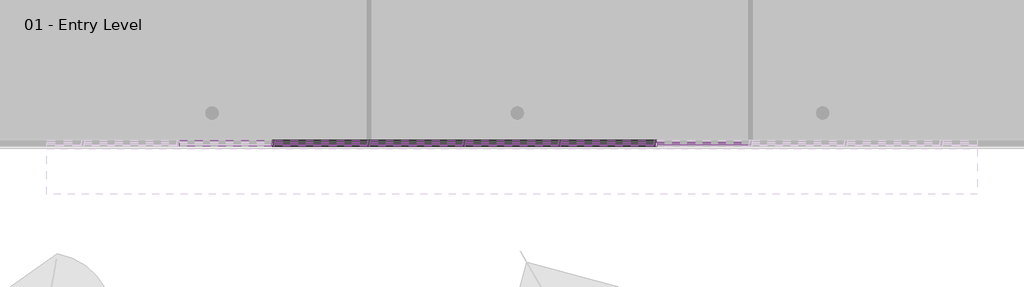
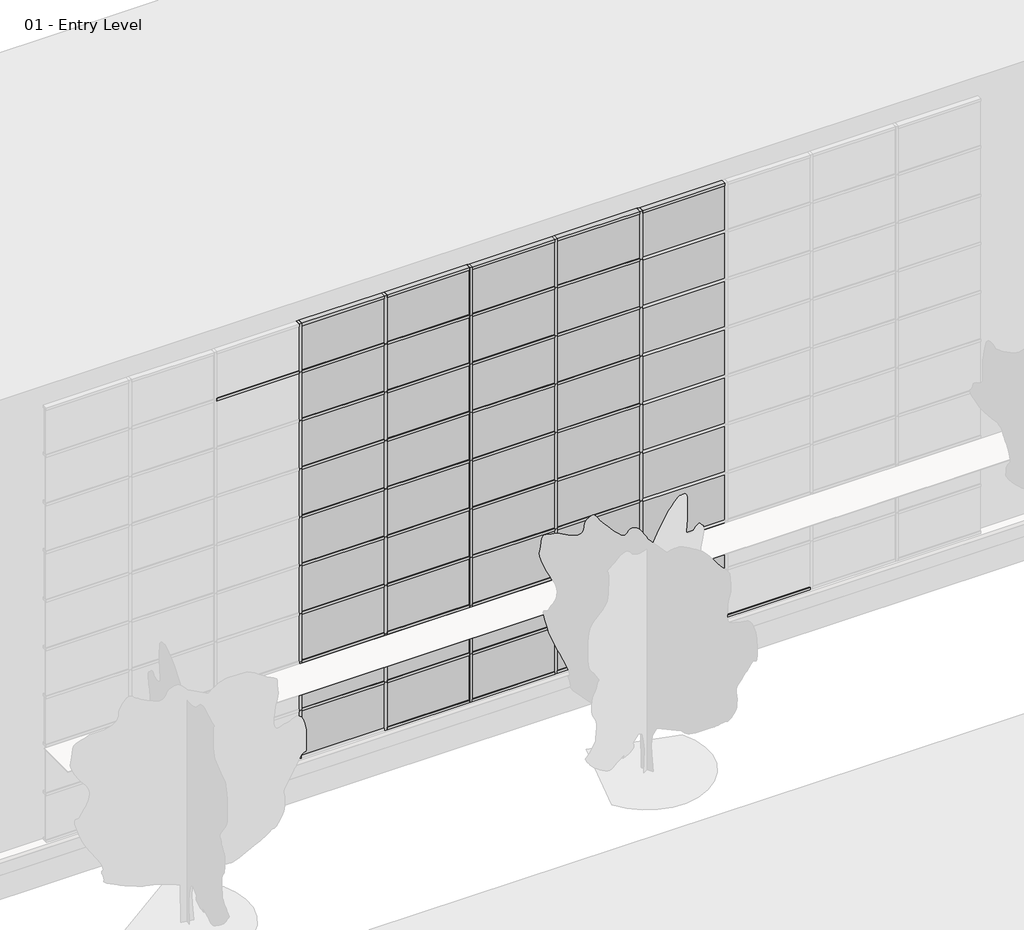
# One storey, part 3 of 35: 88 members, 45 plates.
"""IFC4 building model written with IfcOpenShell, lengths in millimetres."""

from ifc_helpers import new_model, si_unit, origin, place, context, project, spatial, transform, mapped, element, save
from components import member_2b49869a, member_391b434c, member_9e90ae50, system_panel_glazed_1b9d6098, system_panel_glazed_70da479d, system_panel_solid_b376696c, system_panel_solid_77e8b053

model = new_model("IFC4")

# Units and contexts
model_context = context("Model", 3, world=origin())
ifc_project = project(units=[si_unit("LENGTHUNIT", "METRE", prefix="MILLI")], contexts=[model_context])

# Site, building, storey
site = spatial("IfcSite", under=ifc_project)
building = spatial("IfcBuilding", under=site)
storey = spatial("IfcBuildingStorey", under=building, Name="01 - Entry Level", Elevation=0.0)

# Members
placement = place(None, origin())
member_shape = member_2b49869a(model_context)
element("IfcMember", 1, ObjectType="Rectangular Mullion : 2.5\" x 5\" rectangular", at=placement, inside=storey, context=model_context, shape_type="MappedRepresentation", body=[
    mapped(member_shape, transform((30595.2207476, -47.7, 9753.6), x_axis=(1.0, 0.0, 0.0), y_axis=(0.0, -1.0, 0.0), z_axis=(0.0, 0.0, -1.0))),
])
element("IfcMember", 2, ObjectType="Rectangular Mullion : 2.5\" x 5\" rectangular", at=placement, inside=storey, context=model_context, shape_type="MappedRepresentation", body=[
    mapped(member_shape, transform((32627.2207476, -47.7, 9753.6), x_axis=(1.0, 0.0, 0.0), y_axis=(0.0, -1.0, 0.0), z_axis=(0.0, 0.0, -1.0))),
])
element("IfcMember", 3, ObjectType="Rectangular Mullion : 2.5\" x 5\" rectangular", at=placement, inside=storey, context=model_context, shape_type="MappedRepresentation", body=[
    mapped(member_shape, transform((34659.2207476, -47.7, 9753.6), x_axis=(1.0, 0.0, 0.0), y_axis=(0.0, -1.0, 0.0), z_axis=(0.0, 0.0, -1.0))),
])
element("IfcMember", 4, ObjectType="Rectangular Mullion : 2.5\" x 5\" rectangular", at=placement, inside=storey, context=model_context, shape_type="MappedRepresentation", body=[
    mapped(member_shape, transform((36691.2207476, -47.7, 9753.6), x_axis=(1.0, 0.0, 0.0), y_axis=(0.0, -1.0, 0.0), z_axis=(0.0, 0.0, -1.0))),
])
element("IfcMember", 5, ObjectType="Rectangular Mullion : 2.5\" x 5\" rectangular", at=placement, inside=storey, context=model_context, shape_type="MappedRepresentation", body=[
    mapped(member_shape, transform((38723.2207476, -47.7, 9753.6), x_axis=(1.0, 0.0, 0.0), y_axis=(0.0, -1.0, 0.0), z_axis=(0.0, 0.0, -1.0))),
])
member_2_shape = member_391b434c(model_context)
element("IfcMember", 6, ObjectType="Rectangular Mullion : 2.5\" x 5\" rectangular", at=placement, inside=storey, context=model_context, shape_type="MappedRepresentation", body=[
    mapped(member_2_shape, transform((32595.4707476, -47.7, 10972.8), x_axis=(0.0, 0.0, 1.0), y_axis=(0.0, -1.0, 0.0), z_axis=(1.0, 0.0, 0.0))),
])
element("IfcMember", 7, ObjectType="Rectangular Mullion : 2.5\" x 5\" rectangular", at=placement, inside=storey, context=model_context, shape_type="MappedRepresentation", body=[
    mapped(member_2_shape, transform((34627.4707476, -47.7, 10972.8), x_axis=(0.0, 0.0, 1.0), y_axis=(0.0, -1.0, 0.0), z_axis=(1.0, 0.0, 0.0))),
])
element("IfcMember", 8, ObjectType="Rectangular Mullion : 2.5\" x 5\" rectangular", at=placement, inside=storey, context=model_context, shape_type="MappedRepresentation", body=[
    mapped(member_2_shape, transform((36659.4707476, -47.7, 10972.8), x_axis=(0.0, 0.0, 1.0), y_axis=(0.0, -1.0, 0.0), z_axis=(1.0, 0.0, 0.0))),
])
element("IfcMember", 9, ObjectType="Rectangular Mullion : 2.5\" x 5\" rectangular", at=placement, inside=storey, context=model_context, shape_type="MappedRepresentation", body=[
    mapped(member_2_shape, transform((38691.4707476, -47.7, 10972.8), x_axis=(0.0, 0.0, 1.0), y_axis=(0.0, -1.0, 0.0), z_axis=(1.0, 0.0, 0.0))),
])
element("IfcMember", 10, ObjectType="Rectangular Mullion : 2.5\" x 5\" rectangular", at=placement, inside=storey, context=model_context, shape_type="MappedRepresentation", body=[
    mapped(member_2_shape, transform((40723.4707476, -47.7, 10972.8), x_axis=(0.0, 0.0, 1.0), y_axis=(0.0, -1.0, 0.0), z_axis=(1.0, 0.0, 0.0))),
])
element("IfcMember", 11, ObjectType="Rectangular Mullion : 2.5\" x 5\" rectangular", at=placement, inside=storey, context=model_context, shape_type="MappedRepresentation", body=[
    mapped(member_2_shape, transform((32658.9707476, -47.7, 0.0), x_axis=(0.0, 0.0, -1.0), y_axis=(0.0, -1.0, 0.0), z_axis=(-1.0, 0.0, 0.0))),
])
element("IfcMember", 12, ObjectType="Rectangular Mullion : 2.5\" x 5\" rectangular", at=placement, inside=storey, context=model_context, shape_type="MappedRepresentation", body=[
    mapped(member_2_shape, transform((34690.9707476, -47.7, 0.0), x_axis=(0.0, 0.0, -1.0), y_axis=(0.0, -1.0, 0.0), z_axis=(-1.0, 0.0, 0.0))),
])
element("IfcMember", 13, ObjectType="Rectangular Mullion : 2.5\" x 5\" rectangular", at=placement, inside=storey, context=model_context, shape_type="MappedRepresentation", body=[
    mapped(member_2_shape, transform((36722.9707476, -47.7, 0.0), x_axis=(0.0, 0.0, -1.0), y_axis=(0.0, -1.0, 0.0), z_axis=(-1.0, 0.0, 0.0))),
])
element("IfcMember", 14, ObjectType="Rectangular Mullion : 2.5\" x 5\" rectangular", at=placement, inside=storey, context=model_context, shape_type="MappedRepresentation", body=[
    mapped(member_2_shape, transform((38754.9707476, -47.7, 0.0), x_axis=(0.0, 0.0, -1.0), y_axis=(0.0, -1.0, 0.0), z_axis=(-1.0, 0.0, 0.0))),
])
element("IfcMember", 15, ObjectType="Rectangular Mullion : 2.5\" x 5\" rectangular", at=placement, inside=storey, context=model_context, shape_type="MappedRepresentation", body=[
    mapped(member_2_shape, transform((40786.9707476, -47.7, 0.0), x_axis=(0.0, 0.0, -1.0), y_axis=(0.0, -1.0, 0.0), z_axis=(-1.0, 0.0, 0.0))),
])
member_3_shape = member_9e90ae50(model_context)
element("IfcMember", 16, ObjectType="Rectangular Mullion : 2.5\" x 5\" rectangular", at=placement, inside=storey, context=model_context, shape_type="MappedRepresentation", body=[
    mapped(member_3_shape, transform((32595.4707476, -47.7, 1219.2), x_axis=(0.0, 0.0, 1.0), y_axis=(0.0, -1.0, 0.0), z_axis=(1.0, 0.0, 0.0))),
])
element("IfcMember", 17, ObjectType="Rectangular Mullion : 2.5\" x 5\" rectangular", at=placement, inside=storey, context=model_context, shape_type="MappedRepresentation", body=[
    mapped(member_3_shape, transform((34627.4707476, -47.7, 1219.2), x_axis=(0.0, 0.0, 1.0), y_axis=(0.0, -1.0, 0.0), z_axis=(1.0, 0.0, 0.0))),
])
element("IfcMember", 18, ObjectType="Rectangular Mullion : 2.5\" x 5\" rectangular", at=placement, inside=storey, context=model_context, shape_type="MappedRepresentation", body=[
    mapped(member_3_shape, transform((36659.4707476, -47.7, 1219.2), x_axis=(0.0, 0.0, 1.0), y_axis=(0.0, -1.0, 0.0), z_axis=(1.0, 0.0, 0.0))),
])
element("IfcMember", 19, ObjectType="Rectangular Mullion : 2.5\" x 5\" rectangular", at=placement, inside=storey, context=model_context, shape_type="MappedRepresentation", body=[
    mapped(member_3_shape, transform((38691.4707476, -47.7, 1219.2), x_axis=(0.0, 0.0, 1.0), y_axis=(0.0, -1.0, 0.0), z_axis=(1.0, 0.0, 0.0))),
])
element("IfcMember", 20, ObjectType="Rectangular Mullion : 2.5\" x 5\" rectangular", at=placement, inside=storey, context=model_context, shape_type="MappedRepresentation", body=[
    mapped(member_3_shape, transform((32595.4707476, -47.7, 2438.4), x_axis=(0.0, 0.0, 1.0), y_axis=(0.0, -1.0, 0.0), z_axis=(1.0, 0.0, 0.0))),
])
element("IfcMember", 21, ObjectType="Rectangular Mullion : 2.5\" x 5\" rectangular", at=placement, inside=storey, context=model_context, shape_type="MappedRepresentation", body=[
    mapped(member_3_shape, transform((34627.4707476, -47.7, 2438.4), x_axis=(0.0, 0.0, 1.0), y_axis=(0.0, -1.0, 0.0), z_axis=(1.0, 0.0, 0.0))),
])
element("IfcMember", 22, ObjectType="Rectangular Mullion : 2.5\" x 5\" rectangular", at=placement, inside=storey, context=model_context, shape_type="MappedRepresentation", body=[
    mapped(member_3_shape, transform((36659.4707476, -47.7, 2438.4), x_axis=(0.0, 0.0, 1.0), y_axis=(0.0, -1.0, 0.0), z_axis=(1.0, 0.0, 0.0))),
])
element("IfcMember", 23, ObjectType="Rectangular Mullion : 2.5\" x 5\" rectangular", at=placement, inside=storey, context=model_context, shape_type="MappedRepresentation", body=[
    mapped(member_3_shape, transform((38691.4707476, -47.7, 2438.4), x_axis=(0.0, 0.0, 1.0), y_axis=(0.0, -1.0, 0.0), z_axis=(1.0, 0.0, 0.0))),
])
element("IfcMember", 24, ObjectType="Rectangular Mullion : 2.5\" x 5\" rectangular", at=placement, inside=storey, context=model_context, shape_type="MappedRepresentation", body=[
    mapped(member_3_shape, transform((32595.4707476, -47.7, 3657.6), x_axis=(0.0, 0.0, 1.0), y_axis=(0.0, -1.0, 0.0), z_axis=(1.0, 0.0, 0.0))),
])
element("IfcMember", 25, ObjectType="Rectangular Mullion : 2.5\" x 5\" rectangular", at=placement, inside=storey, context=model_context, shape_type="MappedRepresentation", body=[
    mapped(member_3_shape, transform((34627.4707476, -47.7, 3657.6), x_axis=(0.0, 0.0, 1.0), y_axis=(0.0, -1.0, 0.0), z_axis=(1.0, 0.0, 0.0))),
])
element("IfcMember", 26, ObjectType="Rectangular Mullion : 2.5\" x 5\" rectangular", at=placement, inside=storey, context=model_context, shape_type="MappedRepresentation", body=[
    mapped(member_3_shape, transform((36659.4707476, -47.7, 3657.6), x_axis=(0.0, 0.0, 1.0), y_axis=(0.0, -1.0, 0.0), z_axis=(1.0, 0.0, 0.0))),
])
element("IfcMember", 27, ObjectType="Rectangular Mullion : 2.5\" x 5\" rectangular", at=placement, inside=storey, context=model_context, shape_type="MappedRepresentation", body=[
    mapped(member_3_shape, transform((38691.4707476, -47.7, 3657.6), x_axis=(0.0, 0.0, 1.0), y_axis=(0.0, -1.0, 0.0), z_axis=(1.0, 0.0, 0.0))),
])
element("IfcMember", 28, ObjectType="Rectangular Mullion : 2.5\" x 5\" rectangular", at=placement, inside=storey, context=model_context, shape_type="MappedRepresentation", body=[
    mapped(member_3_shape, transform((32595.4707476, -47.7, 4876.8), x_axis=(0.0, 0.0, 1.0), y_axis=(0.0, -1.0, 0.0), z_axis=(1.0, 0.0, 0.0))),
])
element("IfcMember", 29, ObjectType="Rectangular Mullion : 2.5\" x 5\" rectangular", at=placement, inside=storey, context=model_context, shape_type="MappedRepresentation", body=[
    mapped(member_3_shape, transform((34627.4707476, -47.7, 4876.8), x_axis=(0.0, 0.0, 1.0), y_axis=(0.0, -1.0, 0.0), z_axis=(1.0, 0.0, 0.0))),
])
element("IfcMember", 30, ObjectType="Rectangular Mullion : 2.5\" x 5\" rectangular", at=placement, inside=storey, context=model_context, shape_type="MappedRepresentation", body=[
    mapped(member_3_shape, transform((36659.4707476, -47.7, 4876.8), x_axis=(0.0, 0.0, 1.0), y_axis=(0.0, -1.0, 0.0), z_axis=(1.0, 0.0, 0.0))),
])
element("IfcMember", 31, ObjectType="Rectangular Mullion : 2.5\" x 5\" rectangular", at=placement, inside=storey, context=model_context, shape_type="MappedRepresentation", body=[
    mapped(member_3_shape, transform((38691.4707476, -47.7, 4876.8), x_axis=(0.0, 0.0, 1.0), y_axis=(0.0, -1.0, 0.0), z_axis=(1.0, 0.0, 0.0))),
])
element("IfcMember", 32, ObjectType="Rectangular Mullion : 2.5\" x 5\" rectangular", at=placement, inside=storey, context=model_context, shape_type="MappedRepresentation", body=[
    mapped(member_3_shape, transform((32595.4707476, -47.7, 6096.0), x_axis=(0.0, 0.0, 1.0), y_axis=(0.0, -1.0, 0.0), z_axis=(1.0, 0.0, 0.0))),
])
element("IfcMember", 33, ObjectType="Rectangular Mullion : 2.5\" x 5\" rectangular", at=placement, inside=storey, context=model_context, shape_type="MappedRepresentation", body=[
    mapped(member_3_shape, transform((34627.4707476, -47.7, 6096.0), x_axis=(0.0, 0.0, 1.0), y_axis=(0.0, -1.0, 0.0), z_axis=(1.0, 0.0, 0.0))),
])
element("IfcMember", 34, ObjectType="Rectangular Mullion : 2.5\" x 5\" rectangular", at=placement, inside=storey, context=model_context, shape_type="MappedRepresentation", body=[
    mapped(member_3_shape, transform((36659.4707476, -47.7, 6096.0), x_axis=(0.0, 0.0, 1.0), y_axis=(0.0, -1.0, 0.0), z_axis=(1.0, 0.0, 0.0))),
])
element("IfcMember", 35, ObjectType="Rectangular Mullion : 2.5\" x 5\" rectangular", at=placement, inside=storey, context=model_context, shape_type="MappedRepresentation", body=[
    mapped(member_3_shape, transform((38691.4707476, -47.7, 6096.0), x_axis=(0.0, 0.0, 1.0), y_axis=(0.0, -1.0, 0.0), z_axis=(1.0, 0.0, 0.0))),
])
element("IfcMember", 36, ObjectType="Rectangular Mullion : 2.5\" x 5\" rectangular", at=placement, inside=storey, context=model_context, shape_type="MappedRepresentation", body=[
    mapped(member_3_shape, transform((32595.4707476, -47.7, 7315.2), x_axis=(0.0, 0.0, 1.0), y_axis=(0.0, -1.0, 0.0), z_axis=(1.0, 0.0, 0.0))),
])
element("IfcMember", 37, ObjectType="Rectangular Mullion : 2.5\" x 5\" rectangular", at=placement, inside=storey, context=model_context, shape_type="MappedRepresentation", body=[
    mapped(member_3_shape, transform((34627.4707476, -47.7, 7315.2), x_axis=(0.0, 0.0, 1.0), y_axis=(0.0, -1.0, 0.0), z_axis=(1.0, 0.0, 0.0))),
])
element("IfcMember", 38, ObjectType="Rectangular Mullion : 2.5\" x 5\" rectangular", at=placement, inside=storey, context=model_context, shape_type="MappedRepresentation", body=[
    mapped(member_3_shape, transform((36659.4707476, -47.7, 7315.2), x_axis=(0.0, 0.0, 1.0), y_axis=(0.0, -1.0, 0.0), z_axis=(1.0, 0.0, 0.0))),
])
element("IfcMember", 39, ObjectType="Rectangular Mullion : 2.5\" x 5\" rectangular", at=placement, inside=storey, context=model_context, shape_type="MappedRepresentation", body=[
    mapped(member_3_shape, transform((38691.4707476, -47.7, 7315.2), x_axis=(0.0, 0.0, 1.0), y_axis=(0.0, -1.0, 0.0), z_axis=(1.0, 0.0, 0.0))),
])
element("IfcMember", 40, ObjectType="Rectangular Mullion : 2.5\" x 5\" rectangular", at=placement, inside=storey, context=model_context, shape_type="MappedRepresentation", body=[
    mapped(member_3_shape, transform((32595.4707476, -47.7, 8534.4), x_axis=(0.0, 0.0, 1.0), y_axis=(0.0, -1.0, 0.0), z_axis=(1.0, 0.0, 0.0))),
])
element("IfcMember", 41, ObjectType="Rectangular Mullion : 2.5\" x 5\" rectangular", at=placement, inside=storey, context=model_context, shape_type="MappedRepresentation", body=[
    mapped(member_3_shape, transform((34627.4707476, -47.7, 8534.4), x_axis=(0.0, 0.0, 1.0), y_axis=(0.0, -1.0, 0.0), z_axis=(1.0, 0.0, 0.0))),
])
element("IfcMember", 42, ObjectType="Rectangular Mullion : 2.5\" x 5\" rectangular", at=placement, inside=storey, context=model_context, shape_type="MappedRepresentation", body=[
    mapped(member_3_shape, transform((36659.4707476, -47.7, 8534.4), x_axis=(0.0, 0.0, 1.0), y_axis=(0.0, -1.0, 0.0), z_axis=(1.0, 0.0, 0.0))),
])
element("IfcMember", 43, ObjectType="Rectangular Mullion : 2.5\" x 5\" rectangular", at=placement, inside=storey, context=model_context, shape_type="MappedRepresentation", body=[
    mapped(member_3_shape, transform((38691.4707476, -47.7, 8534.4), x_axis=(0.0, 0.0, 1.0), y_axis=(0.0, -1.0, 0.0), z_axis=(1.0, 0.0, 0.0))),
])
element("IfcMember", 44, ObjectType="Rectangular Mullion : 2.5\" x 5\" rectangular", at=placement, inside=storey, context=model_context, shape_type="MappedRepresentation", body=[
    mapped(member_3_shape, transform((30563.4707476, -47.7, 9753.6), x_axis=(0.0, 0.0, 1.0), y_axis=(0.0, -1.0, 0.0), z_axis=(1.0, 0.0, 0.0))),
])
element("IfcMember", 45, ObjectType="Rectangular Mullion : 2.5\" x 5\" rectangular", at=placement, inside=storey, context=model_context, shape_type="MappedRepresentation", body=[
    mapped(member_3_shape, transform((32595.4707476, -47.7, 9753.6), x_axis=(0.0, 0.0, 1.0), y_axis=(0.0, -1.0, 0.0), z_axis=(1.0, 0.0, 0.0))),
])
element("IfcMember", 46, ObjectType="Rectangular Mullion : 2.5\" x 5\" rectangular", at=placement, inside=storey, context=model_context, shape_type="MappedRepresentation", body=[
    mapped(member_3_shape, transform((34627.4707476, -47.7, 9753.6), x_axis=(0.0, 0.0, 1.0), y_axis=(0.0, -1.0, 0.0), z_axis=(1.0, 0.0, 0.0))),
])
element("IfcMember", 47, ObjectType="Rectangular Mullion : 2.5\" x 5\" rectangular", at=placement, inside=storey, context=model_context, shape_type="MappedRepresentation", body=[
    mapped(member_3_shape, transform((36659.4707476, -47.7, 9753.6), x_axis=(0.0, 0.0, 1.0), y_axis=(0.0, -1.0, 0.0), z_axis=(1.0, 0.0, 0.0))),
])
element("IfcMember", 48, ObjectType="Rectangular Mullion : 2.5\" x 5\" rectangular", at=placement, inside=storey, context=model_context, shape_type="MappedRepresentation", body=[
    mapped(member_3_shape, transform((38691.4707476, -47.7, 9753.6), x_axis=(0.0, 0.0, 1.0), y_axis=(0.0, -1.0, 0.0), z_axis=(1.0, 0.0, 0.0))),
])
element("IfcMember", 49, ObjectType="Rectangular Mullion : 2.5\" x 5\" rectangular", at=placement, inside=storey, context=model_context, shape_type="MappedRepresentation", body=[
    mapped(member_shape, transform((30595.2207476, -47.7, 0.0), x_axis=(1.0, 0.0, 0.0), y_axis=(0.0, -1.0, 0.0), z_axis=(0.0, 0.0, -1.0))),
])
element("IfcMember", 50, ObjectType="Rectangular Mullion : 2.5\" x 5\" rectangular", at=placement, inside=storey, context=model_context, shape_type="MappedRepresentation", body=[
    mapped(member_shape, transform((32627.2207476, -47.7, 0.0), x_axis=(1.0, 0.0, 0.0), y_axis=(0.0, -1.0, 0.0), z_axis=(0.0, 0.0, -1.0))),
])
element("IfcMember", 51, ObjectType="Rectangular Mullion : 2.5\" x 5\" rectangular", at=placement, inside=storey, context=model_context, shape_type="MappedRepresentation", body=[
    mapped(member_shape, transform((34659.2207476, -47.7, 0.0), x_axis=(1.0, 0.0, 0.0), y_axis=(0.0, -1.0, 0.0), z_axis=(0.0, 0.0, -1.0))),
])
element("IfcMember", 52, ObjectType="Rectangular Mullion : 2.5\" x 5\" rectangular", at=placement, inside=storey, context=model_context, shape_type="MappedRepresentation", body=[
    mapped(member_shape, transform((36691.2207476, -47.7, 0.0), x_axis=(1.0, 0.0, 0.0), y_axis=(0.0, -1.0, 0.0), z_axis=(0.0, 0.0, -1.0))),
])
element("IfcMember", 53, ObjectType="Rectangular Mullion : 2.5\" x 5\" rectangular", at=placement, inside=storey, context=model_context, shape_type="MappedRepresentation", body=[
    mapped(member_shape, transform((38723.2207476, -47.7, 0.0), x_axis=(1.0, 0.0, 0.0), y_axis=(0.0, -1.0, 0.0), z_axis=(0.0, 0.0, -1.0))),
])
element("IfcMember", 54, ObjectType="Rectangular Mullion : 2.5\" x 5\" rectangular", at=placement, inside=storey, context=model_context, shape_type="MappedRepresentation", body=[
    mapped(member_shape, transform((30595.2207476, -47.7, 1219.2), x_axis=(1.0, 0.0, 0.0), y_axis=(0.0, -1.0, 0.0), z_axis=(0.0, 0.0, -1.0))),
])
element("IfcMember", 55, ObjectType="Rectangular Mullion : 2.5\" x 5\" rectangular", at=placement, inside=storey, context=model_context, shape_type="MappedRepresentation", body=[
    mapped(member_shape, transform((32627.2207476, -47.7, 1219.2), x_axis=(1.0, 0.0, 0.0), y_axis=(0.0, -1.0, 0.0), z_axis=(0.0, 0.0, -1.0))),
])
element("IfcMember", 56, ObjectType="Rectangular Mullion : 2.5\" x 5\" rectangular", at=placement, inside=storey, context=model_context, shape_type="MappedRepresentation", body=[
    mapped(member_shape, transform((34659.2207476, -47.7, 1219.2), x_axis=(1.0, 0.0, 0.0), y_axis=(0.0, -1.0, 0.0), z_axis=(0.0, 0.0, -1.0))),
])
element("IfcMember", 57, ObjectType="Rectangular Mullion : 2.5\" x 5\" rectangular", at=placement, inside=storey, context=model_context, shape_type="MappedRepresentation", body=[
    mapped(member_shape, transform((36691.2207476, -47.7, 1219.2), x_axis=(1.0, 0.0, 0.0), y_axis=(0.0, -1.0, 0.0), z_axis=(0.0, 0.0, -1.0))),
])
element("IfcMember", 58, ObjectType="Rectangular Mullion : 2.5\" x 5\" rectangular", at=placement, inside=storey, context=model_context, shape_type="MappedRepresentation", body=[
    mapped(member_shape, transform((38723.2207476, -47.7, 1219.2), x_axis=(1.0, 0.0, 0.0), y_axis=(0.0, -1.0, 0.0), z_axis=(0.0, 0.0, -1.0))),
])
element("IfcMember", 59, ObjectType="Rectangular Mullion : 2.5\" x 5\" rectangular", at=placement, inside=storey, context=model_context, shape_type="MappedRepresentation", body=[
    mapped(member_shape, transform((30595.2207476, -47.7, 2438.4), x_axis=(1.0, 0.0, 0.0), y_axis=(0.0, -1.0, 0.0), z_axis=(0.0, 0.0, -1.0))),
])
element("IfcMember", 60, ObjectType="Rectangular Mullion : 2.5\" x 5\" rectangular", at=placement, inside=storey, context=model_context, shape_type="MappedRepresentation", body=[
    mapped(member_shape, transform((32627.2207476, -47.7, 2438.4), x_axis=(1.0, 0.0, 0.0), y_axis=(0.0, -1.0, 0.0), z_axis=(0.0, 0.0, -1.0))),
])
element("IfcMember", 61, ObjectType="Rectangular Mullion : 2.5\" x 5\" rectangular", at=placement, inside=storey, context=model_context, shape_type="MappedRepresentation", body=[
    mapped(member_shape, transform((34659.2207476, -47.7, 2438.4), x_axis=(1.0, 0.0, 0.0), y_axis=(0.0, -1.0, 0.0), z_axis=(0.0, 0.0, -1.0))),
])
element("IfcMember", 62, ObjectType="Rectangular Mullion : 2.5\" x 5\" rectangular", at=placement, inside=storey, context=model_context, shape_type="MappedRepresentation", body=[
    mapped(member_shape, transform((36691.2207476, -47.7, 2438.4), x_axis=(1.0, 0.0, 0.0), y_axis=(0.0, -1.0, 0.0), z_axis=(0.0, 0.0, -1.0))),
])
element("IfcMember", 63, ObjectType="Rectangular Mullion : 2.5\" x 5\" rectangular", at=placement, inside=storey, context=model_context, shape_type="MappedRepresentation", body=[
    mapped(member_shape, transform((38723.2207476, -47.7, 2438.4), x_axis=(1.0, 0.0, 0.0), y_axis=(0.0, -1.0, 0.0), z_axis=(0.0, 0.0, -1.0))),
])
element("IfcMember", 64, ObjectType="Rectangular Mullion : 2.5\" x 5\" rectangular", at=placement, inside=storey, context=model_context, shape_type="MappedRepresentation", body=[
    mapped(member_shape, transform((30595.2207476, -47.7, 3657.6), x_axis=(1.0, 0.0, 0.0), y_axis=(0.0, -1.0, 0.0), z_axis=(0.0, 0.0, -1.0))),
])
element("IfcMember", 65, ObjectType="Rectangular Mullion : 2.5\" x 5\" rectangular", at=placement, inside=storey, context=model_context, shape_type="MappedRepresentation", body=[
    mapped(member_shape, transform((32627.2207476, -47.7, 3657.6), x_axis=(1.0, 0.0, 0.0), y_axis=(0.0, -1.0, 0.0), z_axis=(0.0, 0.0, -1.0))),
])
element("IfcMember", 66, ObjectType="Rectangular Mullion : 2.5\" x 5\" rectangular", at=placement, inside=storey, context=model_context, shape_type="MappedRepresentation", body=[
    mapped(member_shape, transform((34659.2207476, -47.7, 3657.6), x_axis=(1.0, 0.0, 0.0), y_axis=(0.0, -1.0, 0.0), z_axis=(0.0, 0.0, -1.0))),
])
element("IfcMember", 67, ObjectType="Rectangular Mullion : 2.5\" x 5\" rectangular", at=placement, inside=storey, context=model_context, shape_type="MappedRepresentation", body=[
    mapped(member_shape, transform((36691.2207476, -47.7, 3657.6), x_axis=(1.0, 0.0, 0.0), y_axis=(0.0, -1.0, 0.0), z_axis=(0.0, 0.0, -1.0))),
])
element("IfcMember", 68, ObjectType="Rectangular Mullion : 2.5\" x 5\" rectangular", at=placement, inside=storey, context=model_context, shape_type="MappedRepresentation", body=[
    mapped(member_shape, transform((38723.2207476, -47.7, 3657.6), x_axis=(1.0, 0.0, 0.0), y_axis=(0.0, -1.0, 0.0), z_axis=(0.0, 0.0, -1.0))),
])
element("IfcMember", 69, ObjectType="Rectangular Mullion : 2.5\" x 5\" rectangular", at=placement, inside=storey, context=model_context, shape_type="MappedRepresentation", body=[
    mapped(member_shape, transform((30595.2207476, -47.7, 4876.8), x_axis=(1.0, 0.0, 0.0), y_axis=(0.0, -1.0, 0.0), z_axis=(0.0, 0.0, -1.0))),
])
element("IfcMember", 70, ObjectType="Rectangular Mullion : 2.5\" x 5\" rectangular", at=placement, inside=storey, context=model_context, shape_type="MappedRepresentation", body=[
    mapped(member_shape, transform((32627.2207476, -47.7, 4876.8), x_axis=(1.0, 0.0, 0.0), y_axis=(0.0, -1.0, 0.0), z_axis=(0.0, 0.0, -1.0))),
])
element("IfcMember", 71, ObjectType="Rectangular Mullion : 2.5\" x 5\" rectangular", at=placement, inside=storey, context=model_context, shape_type="MappedRepresentation", body=[
    mapped(member_shape, transform((34659.2207476, -47.7, 4876.8), x_axis=(1.0, 0.0, 0.0), y_axis=(0.0, -1.0, 0.0), z_axis=(0.0, 0.0, -1.0))),
])
element("IfcMember", 72, ObjectType="Rectangular Mullion : 2.5\" x 5\" rectangular", at=placement, inside=storey, context=model_context, shape_type="MappedRepresentation", body=[
    mapped(member_shape, transform((36691.2207476, -47.7, 4876.8), x_axis=(1.0, 0.0, 0.0), y_axis=(0.0, -1.0, 0.0), z_axis=(0.0, 0.0, -1.0))),
])
element("IfcMember", 73, ObjectType="Rectangular Mullion : 2.5\" x 5\" rectangular", at=placement, inside=storey, context=model_context, shape_type="MappedRepresentation", body=[
    mapped(member_shape, transform((38723.2207476, -47.7, 4876.8), x_axis=(1.0, 0.0, 0.0), y_axis=(0.0, -1.0, 0.0), z_axis=(0.0, 0.0, -1.0))),
])
element("IfcMember", 74, ObjectType="Rectangular Mullion : 2.5\" x 5\" rectangular", at=placement, inside=storey, context=model_context, shape_type="MappedRepresentation", body=[
    mapped(member_shape, transform((30595.2207476, -47.7, 6096.0), x_axis=(1.0, 0.0, 0.0), y_axis=(0.0, -1.0, 0.0), z_axis=(0.0, 0.0, -1.0))),
])
element("IfcMember", 75, ObjectType="Rectangular Mullion : 2.5\" x 5\" rectangular", at=placement, inside=storey, context=model_context, shape_type="MappedRepresentation", body=[
    mapped(member_shape, transform((32627.2207476, -47.7, 6096.0), x_axis=(1.0, 0.0, 0.0), y_axis=(0.0, -1.0, 0.0), z_axis=(0.0, 0.0, -1.0))),
])
element("IfcMember", 76, ObjectType="Rectangular Mullion : 2.5\" x 5\" rectangular", at=placement, inside=storey, context=model_context, shape_type="MappedRepresentation", body=[
    mapped(member_shape, transform((34659.2207476, -47.7, 6096.0), x_axis=(1.0, 0.0, 0.0), y_axis=(0.0, -1.0, 0.0), z_axis=(0.0, 0.0, -1.0))),
])
element("IfcMember", 77, ObjectType="Rectangular Mullion : 2.5\" x 5\" rectangular", at=placement, inside=storey, context=model_context, shape_type="MappedRepresentation", body=[
    mapped(member_shape, transform((36691.2207476, -47.7, 6096.0), x_axis=(1.0, 0.0, 0.0), y_axis=(0.0, -1.0, 0.0), z_axis=(0.0, 0.0, -1.0))),
])
element("IfcMember", 78, ObjectType="Rectangular Mullion : 2.5\" x 5\" rectangular", at=placement, inside=storey, context=model_context, shape_type="MappedRepresentation", body=[
    mapped(member_shape, transform((38723.2207476, -47.7, 6096.0), x_axis=(1.0, 0.0, 0.0), y_axis=(0.0, -1.0, 0.0), z_axis=(0.0, 0.0, -1.0))),
])
element("IfcMember", 79, ObjectType="Rectangular Mullion : 2.5\" x 5\" rectangular", at=placement, inside=storey, context=model_context, shape_type="MappedRepresentation", body=[
    mapped(member_shape, transform((30595.2207476, -47.7, 7315.2), x_axis=(1.0, 0.0, 0.0), y_axis=(0.0, -1.0, 0.0), z_axis=(0.0, 0.0, -1.0))),
])
element("IfcMember", 80, ObjectType="Rectangular Mullion : 2.5\" x 5\" rectangular", at=placement, inside=storey, context=model_context, shape_type="MappedRepresentation", body=[
    mapped(member_shape, transform((32627.2207476, -47.7, 7315.2), x_axis=(1.0, 0.0, 0.0), y_axis=(0.0, -1.0, 0.0), z_axis=(0.0, 0.0, -1.0))),
])
element("IfcMember", 81, ObjectType="Rectangular Mullion : 2.5\" x 5\" rectangular", at=placement, inside=storey, context=model_context, shape_type="MappedRepresentation", body=[
    mapped(member_shape, transform((34659.2207476, -47.7, 7315.2), x_axis=(1.0, 0.0, 0.0), y_axis=(0.0, -1.0, 0.0), z_axis=(0.0, 0.0, -1.0))),
])
element("IfcMember", 82, ObjectType="Rectangular Mullion : 2.5\" x 5\" rectangular", at=placement, inside=storey, context=model_context, shape_type="MappedRepresentation", body=[
    mapped(member_shape, transform((36691.2207476, -47.7, 7315.2), x_axis=(1.0, 0.0, 0.0), y_axis=(0.0, -1.0, 0.0), z_axis=(0.0, 0.0, -1.0))),
])
element("IfcMember", 83, ObjectType="Rectangular Mullion : 2.5\" x 5\" rectangular", at=placement, inside=storey, context=model_context, shape_type="MappedRepresentation", body=[
    mapped(member_shape, transform((38723.2207476, -47.7, 7315.2), x_axis=(1.0, 0.0, 0.0), y_axis=(0.0, -1.0, 0.0), z_axis=(0.0, 0.0, -1.0))),
])
element("IfcMember", 84, ObjectType="Rectangular Mullion : 2.5\" x 5\" rectangular", at=placement, inside=storey, context=model_context, shape_type="MappedRepresentation", body=[
    mapped(member_shape, transform((30595.2207476, -47.7, 8534.4), x_axis=(1.0, 0.0, 0.0), y_axis=(0.0, -1.0, 0.0), z_axis=(0.0, 0.0, -1.0))),
])
element("IfcMember", 85, ObjectType="Rectangular Mullion : 2.5\" x 5\" rectangular", at=placement, inside=storey, context=model_context, shape_type="MappedRepresentation", body=[
    mapped(member_shape, transform((32627.2207476, -47.7, 8534.4), x_axis=(1.0, 0.0, 0.0), y_axis=(0.0, -1.0, 0.0), z_axis=(0.0, 0.0, -1.0))),
])
element("IfcMember", 86, ObjectType="Rectangular Mullion : 2.5\" x 5\" rectangular", at=placement, inside=storey, context=model_context, shape_type="MappedRepresentation", body=[
    mapped(member_shape, transform((34659.2207476, -47.7, 8534.4), x_axis=(1.0, 0.0, 0.0), y_axis=(0.0, -1.0, 0.0), z_axis=(0.0, 0.0, -1.0))),
])
element("IfcMember", 87, ObjectType="Rectangular Mullion : 2.5\" x 5\" rectangular", at=placement, inside=storey, context=model_context, shape_type="MappedRepresentation", body=[
    mapped(member_shape, transform((36691.2207476, -47.7, 8534.4), x_axis=(1.0, 0.0, 0.0), y_axis=(0.0, -1.0, 0.0), z_axis=(0.0, 0.0, -1.0))),
])
element("IfcMember", 88, ObjectType="Rectangular Mullion : 2.5\" x 5\" rectangular", at=placement, inside=storey, context=model_context, shape_type="MappedRepresentation", body=[
    mapped(member_shape, transform((38723.2207476, -47.7, 8534.4), x_axis=(1.0, 0.0, 0.0), y_axis=(0.0, -1.0, 0.0), z_axis=(0.0, 0.0, -1.0))),
])

# Plates
system_panel_glazed_shape = system_panel_glazed_1b9d6098(model_context)
element("IfcPlate", 89, ObjectType="System Panel : Glazed", at=placement, inside=storey, context=model_context, shape_type="MappedRepresentation", body=[
    mapped(system_panel_glazed_shape, transform((31611.2207476, -47.7, 63.5), x_axis=(1.0, 0.0, 0.0), y_axis=(0.0, 1.0, 0.0), z_axis=(0.0, 0.0, 1.0))),
])
element("IfcPlate", 90, ObjectType="System Panel : Glazed", at=placement, inside=storey, context=model_context, shape_type="MappedRepresentation", body=[
    mapped(system_panel_glazed_shape, transform((33643.2207476, -47.7, 63.5), x_axis=(1.0, 0.0, 0.0), y_axis=(0.0, 1.0, 0.0), z_axis=(0.0, 0.0, 1.0))),
])
element("IfcPlate", 91, ObjectType="System Panel : Glazed", at=placement, inside=storey, context=model_context, shape_type="MappedRepresentation", body=[
    mapped(system_panel_glazed_shape, transform((35675.2207476, -47.7, 63.5), x_axis=(1.0, 0.0, 0.0), y_axis=(0.0, 1.0, 0.0), z_axis=(0.0, 0.0, 1.0))),
])
element("IfcPlate", 92, ObjectType="System Panel : Glazed", at=placement, inside=storey, context=model_context, shape_type="MappedRepresentation", body=[
    mapped(system_panel_glazed_shape, transform((37707.2207476, -47.7, 63.5), x_axis=(1.0, 0.0, 0.0), y_axis=(0.0, 1.0, 0.0), z_axis=(0.0, 0.0, 1.0))),
])
element("IfcPlate", 93, ObjectType="System Panel : Glazed", at=placement, inside=storey, context=model_context, shape_type="MappedRepresentation", body=[
    mapped(system_panel_glazed_shape, transform((39739.2207476, -47.7, 63.5), x_axis=(1.0, 0.0, 0.0), y_axis=(0.0, 1.0, 0.0), z_axis=(0.0, 0.0, 1.0))),
])
system_panel_glazed_2_shape = system_panel_glazed_70da479d(model_context)
element("IfcPlate", 94, ObjectType="System Panel : Glazed", at=placement, inside=storey, context=model_context, shape_type="MappedRepresentation", body=[
    mapped(system_panel_glazed_2_shape, transform((31611.2207476, -47.7, 1250.95), x_axis=(1.0, 0.0, 0.0), y_axis=(0.0, 1.0, 0.0), z_axis=(0.0, 0.0, 1.0))),
])
element("IfcPlate", 95, ObjectType="System Panel : Glazed", at=placement, inside=storey, context=model_context, shape_type="MappedRepresentation", body=[
    mapped(system_panel_glazed_2_shape, transform((33643.2207476, -47.7, 1250.95), x_axis=(1.0, 0.0, 0.0), y_axis=(0.0, 1.0, 0.0), z_axis=(0.0, 0.0, 1.0))),
])
element("IfcPlate", 96, ObjectType="System Panel : Glazed", at=placement, inside=storey, context=model_context, shape_type="MappedRepresentation", body=[
    mapped(system_panel_glazed_2_shape, transform((35675.2207476, -47.7, 1250.95), x_axis=(1.0, 0.0, 0.0), y_axis=(0.0, 1.0, 0.0), z_axis=(0.0, 0.0, 1.0))),
])
element("IfcPlate", 97, ObjectType="System Panel : Glazed", at=placement, inside=storey, context=model_context, shape_type="MappedRepresentation", body=[
    mapped(system_panel_glazed_2_shape, transform((37707.2207476, -47.7, 1250.95), x_axis=(1.0, 0.0, 0.0), y_axis=(0.0, 1.0, 0.0), z_axis=(0.0, 0.0, 1.0))),
])
element("IfcPlate", 98, ObjectType="System Panel : Glazed", at=placement, inside=storey, context=model_context, shape_type="MappedRepresentation", body=[
    mapped(system_panel_glazed_2_shape, transform((39739.2207476, -47.7, 1250.95), x_axis=(1.0, 0.0, 0.0), y_axis=(0.0, 1.0, 0.0), z_axis=(0.0, 0.0, 1.0))),
])
element("IfcPlate", 99, ObjectType="System Panel : Glazed", at=placement, inside=storey, context=model_context, shape_type="MappedRepresentation", body=[
    mapped(system_panel_glazed_2_shape, transform((31611.2207476, -47.7, 3689.35), x_axis=(1.0, 0.0, 0.0), y_axis=(0.0, 1.0, 0.0), z_axis=(0.0, 0.0, 1.0))),
])
element("IfcPlate", 100, ObjectType="System Panel : Glazed", at=placement, inside=storey, context=model_context, shape_type="MappedRepresentation", body=[
    mapped(system_panel_glazed_2_shape, transform((33643.2207476, -47.7, 3689.35), x_axis=(1.0, 0.0, 0.0), y_axis=(0.0, 1.0, 0.0), z_axis=(0.0, 0.0, 1.0))),
])
element("IfcPlate", 101, ObjectType="System Panel : Glazed", at=placement, inside=storey, context=model_context, shape_type="MappedRepresentation", body=[
    mapped(system_panel_glazed_2_shape, transform((35675.2207476, -47.7, 3689.35), x_axis=(1.0, 0.0, 0.0), y_axis=(0.0, 1.0, 0.0), z_axis=(0.0, 0.0, 1.0))),
])
element("IfcPlate", 102, ObjectType="System Panel : Glazed", at=placement, inside=storey, context=model_context, shape_type="MappedRepresentation", body=[
    mapped(system_panel_glazed_2_shape, transform((37707.2207476, -47.7, 3689.35), x_axis=(1.0, 0.0, 0.0), y_axis=(0.0, 1.0, 0.0), z_axis=(0.0, 0.0, 1.0))),
])
element("IfcPlate", 103, ObjectType="System Panel : Glazed", at=placement, inside=storey, context=model_context, shape_type="MappedRepresentation", body=[
    mapped(system_panel_glazed_2_shape, transform((39739.2207476, -47.7, 3689.35), x_axis=(1.0, 0.0, 0.0), y_axis=(0.0, 1.0, 0.0), z_axis=(0.0, 0.0, 1.0))),
])
element("IfcPlate", 104, ObjectType="System Panel : Glazed", at=placement, inside=storey, context=model_context, shape_type="MappedRepresentation", body=[
    mapped(system_panel_glazed_2_shape, transform((31611.2207476, -47.7, 4908.55), x_axis=(1.0, 0.0, 0.0), y_axis=(0.0, 1.0, 0.0), z_axis=(0.0, 0.0, 1.0))),
])
element("IfcPlate", 105, ObjectType="System Panel : Glazed", at=placement, inside=storey, context=model_context, shape_type="MappedRepresentation", body=[
    mapped(system_panel_glazed_2_shape, transform((33643.2207476, -47.7, 4908.55), x_axis=(1.0, 0.0, 0.0), y_axis=(0.0, 1.0, 0.0), z_axis=(0.0, 0.0, 1.0))),
])
element("IfcPlate", 106, ObjectType="System Panel : Glazed", at=placement, inside=storey, context=model_context, shape_type="MappedRepresentation", body=[
    mapped(system_panel_glazed_2_shape, transform((35675.2207476, -47.7, 4908.55), x_axis=(1.0, 0.0, 0.0), y_axis=(0.0, 1.0, 0.0), z_axis=(0.0, 0.0, 1.0))),
])
element("IfcPlate", 107, ObjectType="System Panel : Glazed", at=placement, inside=storey, context=model_context, shape_type="MappedRepresentation", body=[
    mapped(system_panel_glazed_2_shape, transform((37707.2207476, -47.7, 4908.55), x_axis=(1.0, 0.0, 0.0), y_axis=(0.0, 1.0, 0.0), z_axis=(0.0, 0.0, 1.0))),
])
element("IfcPlate", 108, ObjectType="System Panel : Glazed", at=placement, inside=storey, context=model_context, shape_type="MappedRepresentation", body=[
    mapped(system_panel_glazed_2_shape, transform((39739.2207476, -47.7, 4908.55), x_axis=(1.0, 0.0, 0.0), y_axis=(0.0, 1.0, 0.0), z_axis=(0.0, 0.0, 1.0))),
])
element("IfcPlate", 109, ObjectType="System Panel : Glazed", at=placement, inside=storey, context=model_context, shape_type="MappedRepresentation", body=[
    mapped(system_panel_glazed_2_shape, transform((31611.2207476, -47.7, 7346.95), x_axis=(1.0, 0.0, 0.0), y_axis=(0.0, 1.0, 0.0), z_axis=(0.0, 0.0, 1.0))),
])
element("IfcPlate", 110, ObjectType="System Panel : Glazed", at=placement, inside=storey, context=model_context, shape_type="MappedRepresentation", body=[
    mapped(system_panel_glazed_2_shape, transform((33643.2207476, -47.7, 7346.95), x_axis=(1.0, 0.0, 0.0), y_axis=(0.0, 1.0, 0.0), z_axis=(0.0, 0.0, 1.0))),
])
element("IfcPlate", 111, ObjectType="System Panel : Glazed", at=placement, inside=storey, context=model_context, shape_type="MappedRepresentation", body=[
    mapped(system_panel_glazed_2_shape, transform((35675.2207476, -47.7, 7346.95), x_axis=(1.0, 0.0, 0.0), y_axis=(0.0, 1.0, 0.0), z_axis=(0.0, 0.0, 1.0))),
])
element("IfcPlate", 112, ObjectType="System Panel : Glazed", at=placement, inside=storey, context=model_context, shape_type="MappedRepresentation", body=[
    mapped(system_panel_glazed_2_shape, transform((37707.2207476, -47.7, 7346.95), x_axis=(1.0, 0.0, 0.0), y_axis=(0.0, 1.0, 0.0), z_axis=(0.0, 0.0, 1.0))),
])
element("IfcPlate", 113, ObjectType="System Panel : Glazed", at=placement, inside=storey, context=model_context, shape_type="MappedRepresentation", body=[
    mapped(system_panel_glazed_2_shape, transform((39739.2207476, -47.7, 7346.95), x_axis=(1.0, 0.0, 0.0), y_axis=(0.0, 1.0, 0.0), z_axis=(0.0, 0.0, 1.0))),
])
element("IfcPlate", 114, ObjectType="System Panel : Glazed", at=placement, inside=storey, context=model_context, shape_type="MappedRepresentation", body=[
    mapped(system_panel_glazed_2_shape, transform((31611.2207476, -47.7, 8566.15), x_axis=(1.0, 0.0, 0.0), y_axis=(0.0, 1.0, 0.0), z_axis=(0.0, 0.0, 1.0))),
])
element("IfcPlate", 115, ObjectType="System Panel : Glazed", at=placement, inside=storey, context=model_context, shape_type="MappedRepresentation", body=[
    mapped(system_panel_glazed_2_shape, transform((33643.2207476, -47.7, 8566.15), x_axis=(1.0, 0.0, 0.0), y_axis=(0.0, 1.0, 0.0), z_axis=(0.0, 0.0, 1.0))),
])
element("IfcPlate", 116, ObjectType="System Panel : Glazed", at=placement, inside=storey, context=model_context, shape_type="MappedRepresentation", body=[
    mapped(system_panel_glazed_2_shape, transform((35675.2207476, -47.7, 8566.15), x_axis=(1.0, 0.0, 0.0), y_axis=(0.0, 1.0, 0.0), z_axis=(0.0, 0.0, 1.0))),
])
element("IfcPlate", 117, ObjectType="System Panel : Glazed", at=placement, inside=storey, context=model_context, shape_type="MappedRepresentation", body=[
    mapped(system_panel_glazed_2_shape, transform((37707.2207476, -47.7, 8566.15), x_axis=(1.0, 0.0, 0.0), y_axis=(0.0, 1.0, 0.0), z_axis=(0.0, 0.0, 1.0))),
])
element("IfcPlate", 118, ObjectType="System Panel : Glazed", at=placement, inside=storey, context=model_context, shape_type="MappedRepresentation", body=[
    mapped(system_panel_glazed_2_shape, transform((39739.2207476, -47.7, 8566.15), x_axis=(1.0, 0.0, 0.0), y_axis=(0.0, 1.0, 0.0), z_axis=(0.0, 0.0, 1.0))),
])
system_panel_solid_shape = system_panel_solid_b376696c(model_context)
element("IfcPlate", 119, ObjectType="System Panel : Solid", at=placement, inside=storey, context=model_context, shape_type="MappedRepresentation", body=[
    mapped(system_panel_solid_shape, transform((31611.2207476, -47.7, 9785.35), x_axis=(1.0, 0.0, 0.0), y_axis=(0.0, 1.0, 0.0), z_axis=(0.0, 0.0, 1.0))),
])
element("IfcPlate", 120, ObjectType="System Panel : Solid", at=placement, inside=storey, context=model_context, shape_type="MappedRepresentation", body=[
    mapped(system_panel_solid_shape, transform((33643.2207476, -47.7, 9785.35), x_axis=(1.0, 0.0, 0.0), y_axis=(0.0, 1.0, 0.0), z_axis=(0.0, 0.0, 1.0))),
])
element("IfcPlate", 121, ObjectType="System Panel : Solid", at=placement, inside=storey, context=model_context, shape_type="MappedRepresentation", body=[
    mapped(system_panel_solid_shape, transform((35675.2207476, -47.7, 9785.35), x_axis=(1.0, 0.0, 0.0), y_axis=(0.0, 1.0, 0.0), z_axis=(0.0, 0.0, 1.0))),
])
element("IfcPlate", 122, ObjectType="System Panel : Solid", at=placement, inside=storey, context=model_context, shape_type="MappedRepresentation", body=[
    mapped(system_panel_solid_shape, transform((37707.2207476, -47.7, 9785.35), x_axis=(1.0, 0.0, 0.0), y_axis=(0.0, 1.0, 0.0), z_axis=(0.0, 0.0, 1.0))),
])
element("IfcPlate", 123, ObjectType="System Panel : Solid", at=placement, inside=storey, context=model_context, shape_type="MappedRepresentation", body=[
    mapped(system_panel_solid_shape, transform((39739.2207476, -47.7, 9785.35), x_axis=(1.0, 0.0, 0.0), y_axis=(0.0, 1.0, 0.0), z_axis=(0.0, 0.0, 1.0))),
])
system_panel_solid_2_shape = system_panel_solid_77e8b053(model_context)
element("IfcPlate", 124, ObjectType="System Panel : Solid", at=placement, inside=storey, context=model_context, shape_type="MappedRepresentation", body=[
    mapped(system_panel_solid_2_shape, transform((31611.2207476, -47.7, 2470.15), x_axis=(1.0, 0.0, 0.0), y_axis=(0.0, 1.0, 0.0), z_axis=(0.0, 0.0, 1.0))),
])
element("IfcPlate", 125, ObjectType="System Panel : Solid", at=placement, inside=storey, context=model_context, shape_type="MappedRepresentation", body=[
    mapped(system_panel_solid_2_shape, transform((33643.2207476, -47.7, 2470.15), x_axis=(1.0, 0.0, 0.0), y_axis=(0.0, 1.0, 0.0), z_axis=(0.0, 0.0, 1.0))),
])
element("IfcPlate", 126, ObjectType="System Panel : Solid", at=placement, inside=storey, context=model_context, shape_type="MappedRepresentation", body=[
    mapped(system_panel_solid_2_shape, transform((35675.2207476, -47.7, 2470.15), x_axis=(1.0, 0.0, 0.0), y_axis=(0.0, 1.0, 0.0), z_axis=(0.0, 0.0, 1.0))),
])
element("IfcPlate", 127, ObjectType="System Panel : Solid", at=placement, inside=storey, context=model_context, shape_type="MappedRepresentation", body=[
    mapped(system_panel_solid_2_shape, transform((37707.2207476, -47.7, 2470.15), x_axis=(1.0, 0.0, 0.0), y_axis=(0.0, 1.0, 0.0), z_axis=(0.0, 0.0, 1.0))),
])
element("IfcPlate", 128, ObjectType="System Panel : Solid", at=placement, inside=storey, context=model_context, shape_type="MappedRepresentation", body=[
    mapped(system_panel_solid_2_shape, transform((39739.2207476, -47.7, 2470.15), x_axis=(1.0, 0.0, 0.0), y_axis=(0.0, 1.0, 0.0), z_axis=(0.0, 0.0, 1.0))),
])
element("IfcPlate", 129, ObjectType="System Panel : Solid", at=placement, inside=storey, context=model_context, shape_type="MappedRepresentation", body=[
    mapped(system_panel_solid_2_shape, transform((31611.2207476, -47.7, 6127.75), x_axis=(1.0, 0.0, 0.0), y_axis=(0.0, 1.0, 0.0), z_axis=(0.0, 0.0, 1.0))),
])
element("IfcPlate", 130, ObjectType="System Panel : Solid", at=placement, inside=storey, context=model_context, shape_type="MappedRepresentation", body=[
    mapped(system_panel_solid_2_shape, transform((33643.2207476, -47.7, 6127.75), x_axis=(1.0, 0.0, 0.0), y_axis=(0.0, 1.0, 0.0), z_axis=(0.0, 0.0, 1.0))),
])
element("IfcPlate", 131, ObjectType="System Panel : Solid", at=placement, inside=storey, context=model_context, shape_type="MappedRepresentation", body=[
    mapped(system_panel_solid_2_shape, transform((35675.2207476, -47.7, 6127.75), x_axis=(1.0, 0.0, 0.0), y_axis=(0.0, 1.0, 0.0), z_axis=(0.0, 0.0, 1.0))),
])
element("IfcPlate", 132, ObjectType="System Panel : Solid", at=placement, inside=storey, context=model_context, shape_type="MappedRepresentation", body=[
    mapped(system_panel_solid_2_shape, transform((37707.2207476, -47.7, 6127.75), x_axis=(1.0, 0.0, 0.0), y_axis=(0.0, 1.0, 0.0), z_axis=(0.0, 0.0, 1.0))),
])
element("IfcPlate", 133, ObjectType="System Panel : Solid", at=placement, inside=storey, context=model_context, shape_type="MappedRepresentation", body=[
    mapped(system_panel_solid_2_shape, transform((39739.2207476, -47.7, 6127.75), x_axis=(1.0, 0.0, 0.0), y_axis=(0.0, 1.0, 0.0), z_axis=(0.0, 0.0, 1.0))),
])

save(model, "model.ifc")
